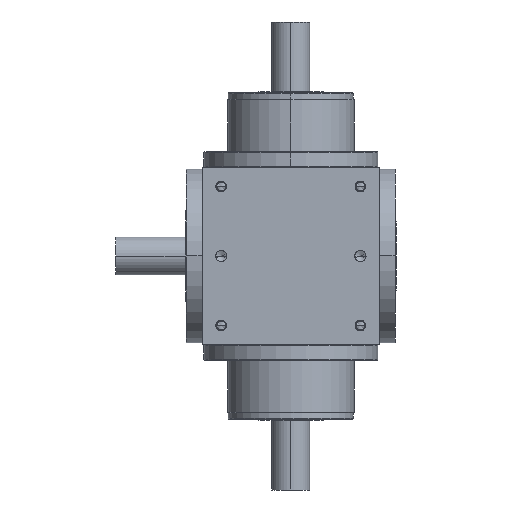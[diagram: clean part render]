
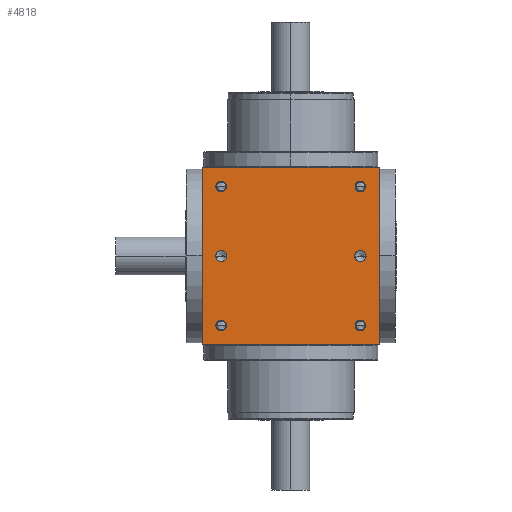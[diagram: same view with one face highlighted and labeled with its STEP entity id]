
A CAD part, front view. The second image highlights one B-rep face of the part: STEP entity #4818.
In plain terms, the highlighted planar face has unit normal (0, -1, 0).
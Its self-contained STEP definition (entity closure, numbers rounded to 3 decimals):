
#5=DIRECTION('',(1.,0.,0.));
#6=VECTOR('',#5,280.);
#7=CARTESIAN_POINT('',(-140.,-140.,-140.));
#8=LINE('',#7,#6);
#165=DIRECTION('',(0.,0.,1.));
#166=VECTOR('',#165,280.);
#167=CARTESIAN_POINT('',(140.,-140.,-140.));
#168=LINE('',#167,#166);
#219=DIRECTION('',(0.,0.,1.));
#220=VECTOR('',#219,280.);
#221=CARTESIAN_POINT('',(-140.,-140.,-140.));
#222=LINE('',#221,#220);
#223=CARTESIAN_POINT('',(110.,-140.,110.));
#224=DIRECTION('',(0.,1.,0.));
#225=DIRECTION('',(-1.,0.,0.));
#226=AXIS2_PLACEMENT_3D('',#223,#224,#225);
#228=CARTESIAN_POINT('',(110.,-140.,110.));
#229=DIRECTION('',(0.,1.,0.));
#230=DIRECTION('',(1.,0.,0.));
#231=AXIS2_PLACEMENT_3D('',#228,#229,#230);
#233=CARTESIAN_POINT('',(-110.,-140.,110.));
#234=DIRECTION('',(0.,1.,0.));
#235=DIRECTION('',(-1.,0.,0.));
#236=AXIS2_PLACEMENT_3D('',#233,#234,#235);
#238=CARTESIAN_POINT('',(-110.,-140.,110.));
#239=DIRECTION('',(0.,1.,0.));
#240=DIRECTION('',(1.,0.,0.));
#241=AXIS2_PLACEMENT_3D('',#238,#239,#240);
#243=CARTESIAN_POINT('',(110.,-140.,-110.));
#244=DIRECTION('',(0.,1.,0.));
#245=DIRECTION('',(-1.,0.,0.));
#246=AXIS2_PLACEMENT_3D('',#243,#244,#245);
#248=CARTESIAN_POINT('',(110.,-140.,-110.));
#249=DIRECTION('',(0.,1.,0.));
#250=DIRECTION('',(1.,0.,0.));
#251=AXIS2_PLACEMENT_3D('',#248,#249,#250);
#253=CARTESIAN_POINT('',(-110.,-140.,-110.));
#254=DIRECTION('',(0.,1.,0.));
#255=DIRECTION('',(-1.,0.,0.));
#256=AXIS2_PLACEMENT_3D('',#253,#254,#255);
#258=CARTESIAN_POINT('',(-110.,-140.,-110.));
#259=DIRECTION('',(0.,1.,0.));
#260=DIRECTION('',(1.,0.,0.));
#261=AXIS2_PLACEMENT_3D('',#258,#259,#260);
#263=CARTESIAN_POINT('',(-110.,-140.,0.));
#264=DIRECTION('',(0.,1.,0.));
#265=DIRECTION('',(1.,0.,0.));
#266=AXIS2_PLACEMENT_3D('',#263,#264,#265);
#268=CARTESIAN_POINT('',(-110.,-140.,0.));
#269=DIRECTION('',(0.,1.,0.));
#270=DIRECTION('',(-1.,0.,0.));
#271=AXIS2_PLACEMENT_3D('',#268,#269,#270);
#273=CARTESIAN_POINT('',(110.,-140.,0.));
#274=DIRECTION('',(0.,1.,0.));
#275=DIRECTION('',(1.,0.,0.));
#276=AXIS2_PLACEMENT_3D('',#273,#274,#275);
#278=CARTESIAN_POINT('',(110.,-140.,0.));
#279=DIRECTION('',(0.,1.,0.));
#280=DIRECTION('',(-1.,0.,0.));
#281=AXIS2_PLACEMENT_3D('',#278,#279,#280);
#295=DIRECTION('',(1.,0.,0.));
#296=VECTOR('',#295,280.);
#297=CARTESIAN_POINT('',(-140.,-140.,140.));
#298=LINE('',#297,#296);
#3840=CARTESIAN_POINT('',(-140.,-140.,-140.));
#3842=VERTEX_POINT('',#3840);
#3843=CARTESIAN_POINT('',(140.,-140.,-140.));
#3844=VERTEX_POINT('',#3843);
#3848=CARTESIAN_POINT('',(-140.,-140.,140.));
#3850=VERTEX_POINT('',#3848);
#3851=CARTESIAN_POINT('',(140.,-140.,140.));
#3852=VERTEX_POINT('',#3851);
#4023=CARTESIAN_POINT('',(101.6,-140.,110.));
#4024=CARTESIAN_POINT('',(118.4,-140.,110.));
#4025=VERTEX_POINT('',#4023);
#4026=VERTEX_POINT('',#4024);
#4031=CARTESIAN_POINT('',(-118.4,-140.,110.));
#4032=CARTESIAN_POINT('',(-101.6,-140.,110.));
#4033=VERTEX_POINT('',#4031);
#4034=VERTEX_POINT('',#4032);
#4039=CARTESIAN_POINT('',(101.6,-140.,-110.));
#4040=CARTESIAN_POINT('',(118.4,-140.,-110.));
#4041=VERTEX_POINT('',#4039);
#4042=VERTEX_POINT('',#4040);
#4047=CARTESIAN_POINT('',(-118.4,-140.,-110.));
#4048=CARTESIAN_POINT('',(-101.6,-140.,-110.));
#4049=VERTEX_POINT('',#4047);
#4050=VERTEX_POINT('',#4048);
#4389=CARTESIAN_POINT('',(-100.95,-140.,0.));
#4390=CARTESIAN_POINT('',(-119.05,-140.,0.));
#4391=VERTEX_POINT('',#4389);
#4392=VERTEX_POINT('',#4390);
#4397=CARTESIAN_POINT('',(119.05,-140.,0.));
#4398=CARTESIAN_POINT('',(100.95,-140.,0.));
#4399=VERTEX_POINT('',#4397);
#4400=VERTEX_POINT('',#4398);
#4770=CARTESIAN_POINT('',(-140.,-140.,-140.));
#4771=DIRECTION('',(0.,-1.,0.));
#4772=DIRECTION('',(1.,0.,0.));
#4773=AXIS2_PLACEMENT_3D('',#4770,#4771,#4772);
#4774=PLANE('',#4773);
#4775=ORIENTED_EDGE('',*,*,#4604,.F.);
#4776=ORIENTED_EDGE('',*,*,#4653,.T.);
#4778=ORIENTED_EDGE('',*,*,#4777,.T.);
#4779=ORIENTED_EDGE('',*,*,#4732,.F.);
#4780=EDGE_LOOP('',(#4775,#4776,#4778,#4779));
#4781=FACE_OUTER_BOUND('',#4780,.F.);
#4783=ORIENTED_EDGE('',*,*,#4782,.F.);
#4785=ORIENTED_EDGE('',*,*,#4784,.F.);
#4786=EDGE_LOOP('',(#4783,#4785));
#4787=FACE_BOUND('',#4786,.F.);
#4789=ORIENTED_EDGE('',*,*,#4788,.F.);
#4791=ORIENTED_EDGE('',*,*,#4790,.F.);
#4792=EDGE_LOOP('',(#4789,#4791));
#4793=FACE_BOUND('',#4792,.F.);
#4795=ORIENTED_EDGE('',*,*,#4794,.F.);
#4797=ORIENTED_EDGE('',*,*,#4796,.F.);
#4798=EDGE_LOOP('',(#4795,#4797));
#4799=FACE_BOUND('',#4798,.F.);
#4801=ORIENTED_EDGE('',*,*,#4800,.F.);
#4803=ORIENTED_EDGE('',*,*,#4802,.F.);
#4804=EDGE_LOOP('',(#4801,#4803));
#4805=FACE_BOUND('',#4804,.F.);
#4807=ORIENTED_EDGE('',*,*,#4806,.F.);
#4809=ORIENTED_EDGE('',*,*,#4808,.F.);
#4810=EDGE_LOOP('',(#4807,#4809));
#4811=FACE_BOUND('',#4810,.F.);
#4813=ORIENTED_EDGE('',*,*,#4812,.F.);
#4815=ORIENTED_EDGE('',*,*,#4814,.F.);
#4816=EDGE_LOOP('',(#4813,#4815));
#4817=FACE_BOUND('',#4816,.F.);
#4818=ADVANCED_FACE('',(#4781,#4787,#4793,#4799,#4805,#4811,#4817),#4774,.T.);
#227=CIRCLE('',#226,8.4);
#232=CIRCLE('',#231,8.4);
#237=CIRCLE('',#236,8.4);
#242=CIRCLE('',#241,8.4);
#247=CIRCLE('',#246,8.4);
#252=CIRCLE('',#251,8.4);
#257=CIRCLE('',#256,8.4);
#262=CIRCLE('',#261,8.4);
#267=CIRCLE('',#266,9.05);
#272=CIRCLE('',#271,9.05);
#277=CIRCLE('',#276,9.05);
#282=CIRCLE('',#281,9.05);
#4604=EDGE_CURVE('',#3842,#3844,#8,.T.);
#4653=EDGE_CURVE('',#3842,#3850,#222,.T.);
#4732=EDGE_CURVE('',#3844,#3852,#168,.T.);
#4777=EDGE_CURVE('',#3850,#3852,#298,.T.);
#4782=EDGE_CURVE('',#4025,#4026,#227,.T.);
#4784=EDGE_CURVE('',#4026,#4025,#232,.T.);
#4788=EDGE_CURVE('',#4033,#4034,#237,.T.);
#4790=EDGE_CURVE('',#4034,#4033,#242,.T.);
#4794=EDGE_CURVE('',#4041,#4042,#247,.T.);
#4796=EDGE_CURVE('',#4042,#4041,#252,.T.);
#4800=EDGE_CURVE('',#4049,#4050,#257,.T.);
#4802=EDGE_CURVE('',#4050,#4049,#262,.T.);
#4806=EDGE_CURVE('',#4391,#4392,#267,.T.);
#4808=EDGE_CURVE('',#4392,#4391,#272,.T.);
#4812=EDGE_CURVE('',#4399,#4400,#277,.T.);
#4814=EDGE_CURVE('',#4400,#4399,#282,.T.);
